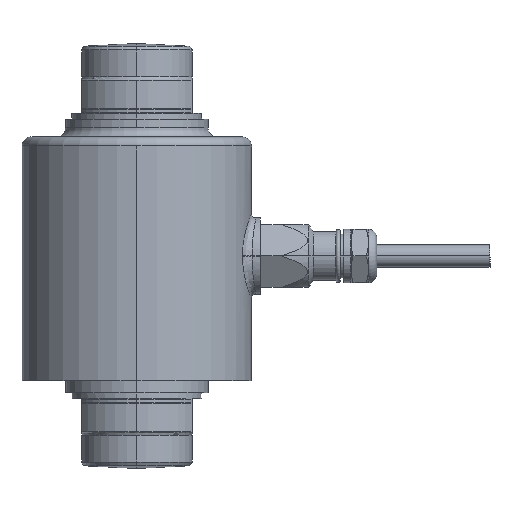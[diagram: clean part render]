
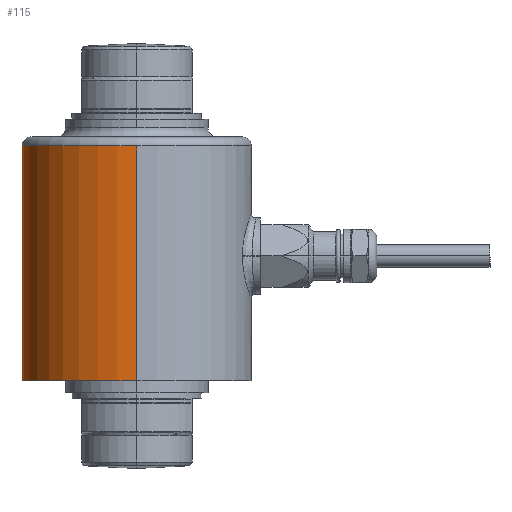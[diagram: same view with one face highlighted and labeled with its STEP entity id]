
A CAD part, left-side view. The second image highlights one B-rep face of the part: STEP entity #115.
In plain terms, the highlighted cylindrical face has radius 40.5 mm (diameter 81 mm), a partial arc.
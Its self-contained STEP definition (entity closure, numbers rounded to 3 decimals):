
#43 = CIRCLE ( 'NONE', #2558, 40.5 ) ;
#115 = ADVANCED_FACE ( 'NONE', ( #6349 ), #6351, .T. ) ;
#190 = VERTEX_POINT ( 'NONE', #2812 ) ;
#215 = VERTEX_POINT ( 'NONE', #2787 ) ;
#262 = EDGE_LOOP ( 'NONE', ( #3469, #3029, #3030, #3031, #3032 ) ) ;
#417 = AXIS2_PLACEMENT_3D ( 'NONE', #1430, #1431, #1674 ) ;
#633 = AXIS2_PLACEMENT_3D ( 'NONE', #4536, #4627, #4628 ) ;
#635 = AXIS2_PLACEMENT_3D ( 'NONE', #4623, #4624, #4625 ) ;
#1430 = CARTESIAN_POINT ( 'NONE',  ( 11.776, -23.299, 93.939 ) ) ;
#1431 = DIRECTION ( 'NONE',  ( 0., 0., 1. ) ) ;
#1674 = DIRECTION ( 'NONE',  ( -1., 0., 0. ) ) ;
#1878 = VERTEX_POINT ( 'NONE', #2584 ) ;
#1893 = VERTEX_POINT ( 'NONE', #2525 ) ;
#1901 = VERTEX_POINT ( 'NONE', #2517 ) ;
#2517 = CARTESIAN_POINT ( 'NONE',  ( -28.724, -23.299, 52.527 ) ) ;
#2525 = CARTESIAN_POINT ( 'NONE',  ( 52.276, -23.299, 52.527 ) ) ;
#2558 = AXIS2_PLACEMENT_3D ( 'NONE', #5312, #5318, #5319 ) ;
#2584 = CARTESIAN_POINT ( 'NONE',  ( 11.776, 17.201, 135.352 ) ) ;
#2787 = CARTESIAN_POINT ( 'NONE',  ( 52.276, -23.299, 135.352 ) ) ;
#2812 = CARTESIAN_POINT ( 'NONE',  ( -28.724, -23.299, 135.352 ) ) ;
#3029 = ORIENTED_EDGE ( 'NONE', *, *, #6652, .T. ) ;
#3030 = ORIENTED_EDGE ( 'NONE', *, *, #6532, .T. ) ;
#3031 = ORIENTED_EDGE ( 'NONE', *, *, #6651, .F. ) ;
#3032 = ORIENTED_EDGE ( 'NONE', *, *, #6755, .F. ) ;
#3469 = ORIENTED_EDGE ( 'NONE', *, *, #6541, .F. ) ;
#3570 = CARTESIAN_POINT ( 'NONE',  ( -28.724, -23.299, 93.939 ) ) ;
#3573 = DIRECTION ( 'NONE',  ( 0., 0., 1. ) ) ;
#3587 = CARTESIAN_POINT ( 'NONE',  ( 52.276, -23.299, 93.939 ) ) ;
#3600 = DIRECTION ( 'NONE',  ( 0., 0., 1. ) ) ;
#4536 = CARTESIAN_POINT ( 'NONE',  ( 11.776, -23.299, 52.527 ) ) ;
#4623 = CARTESIAN_POINT ( 'NONE',  ( 11.776, -23.299, 135.352 ) ) ;
#4624 = DIRECTION ( 'NONE',  ( 0., 0., 1. ) ) ;
#4625 = DIRECTION ( 'NONE',  ( -1., 0., 0. ) ) ;
#4627 = DIRECTION ( 'NONE',  ( 0., 0., 1. ) ) ;
#4628 = DIRECTION ( 'NONE',  ( -1., 0., 0. ) ) ;
#5312 = CARTESIAN_POINT ( 'NONE',  ( 11.776, -23.299, 135.352 ) ) ;
#5318 = DIRECTION ( 'NONE',  ( 0., 0., 1. ) ) ;
#5319 = DIRECTION ( 'NONE',  ( -1., 0., 0. ) ) ;
#5426 = LINE ( 'NONE', #3570, #5431 ) ;
#5431 = VECTOR ( 'NONE', #3573, 1000. ) ;
#5434 = VECTOR ( 'NONE', #3600, 1000. ) ;
#5441 = LINE ( 'NONE', #3587, #5434 ) ;
#5571 = CIRCLE ( 'NONE', #635, 40.5 ) ;
#5573 = CIRCLE ( 'NONE', #633, 40.5 ) ;
#6349 = FACE_OUTER_BOUND ( 'NONE', #262, .T. ) ;
#6351 = CYLINDRICAL_SURFACE ( 'NONE', #417, 40.5 ) ;
#6532 = EDGE_CURVE ( 'NONE', #1901, #190, #5426, .T. ) ;
#6541 = EDGE_CURVE ( 'NONE', #1893, #215, #5441, .T. ) ;
#6651 = EDGE_CURVE ( 'NONE', #1878, #190, #5571, .T. ) ;
#6652 = EDGE_CURVE ( 'NONE', #1893, #1901, #5573, .T. ) ;
#6755 = EDGE_CURVE ( 'NONE', #215, #1878, #43, .T. ) ;
